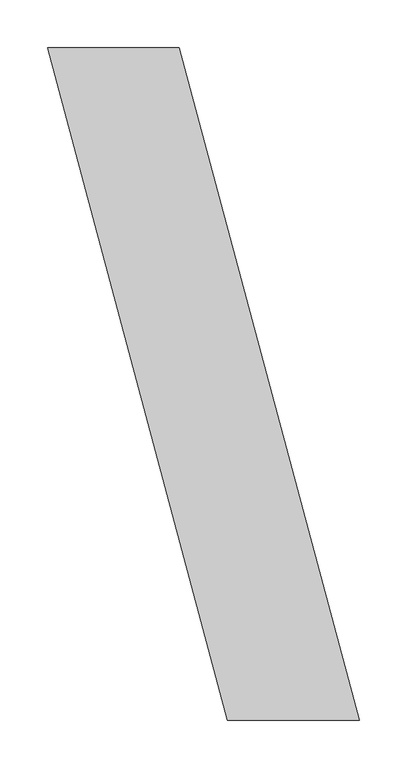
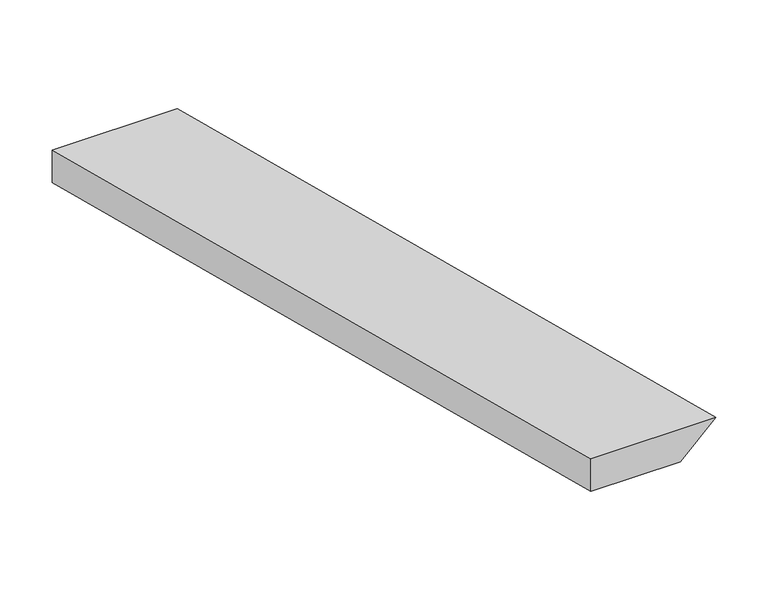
"""IFC4 building model written with IfcOpenShell, lengths in millimetres: proxy geometry, FOUNDATION^TABLE 5_60x180 RT END BASE-LEFT END."""

from ifc_helpers import new_model, si_unit, origin, place, context, project, spatial, faceted_brep, source, transform, mapped, element, save


def generic_models_5ebf4275(model_context):
    return source(origin(), model_context, "Body", "Brep", [
        faceted_brep([(3676.6599096, -704.85, -457.2), (3775.2699658, -704.85, -457.2), (3814.7139883, -704.85, -419.1), (3676.6599096, -704.85, -419.1), (3487.7959213, 0.0, -457.2), (3586.4059775, 0.0, -457.2), (3625.85, 0.0, -419.1), (3487.7959213, 0.0, -419.1)], [[[0, 1, 2, 3]], [[1, 0, 4, 5]], [[2, 1, 5, 6]], [[3, 2, 6, 7]], [[0, 3, 7, 4]], [[5, 4, 7, 6]]]),
    ])


if __name__ == "__main__":
    model = new_model("IFC4")
    model_context = context("Model", 3, world=origin())
    ifc_project = project(units=[si_unit("LENGTHUNIT", "METRE", prefix="MILLI")], contexts=[model_context])
    site = spatial("IfcSite", under=ifc_project)
    building = spatial("IfcBuilding", under=site)
    placement = place(None, origin())
    generic_models_shape = generic_models_5ebf4275(model_context)
    element("IfcBuildingElementProxy", 1, Name="FOUNDATION^TABLE 5_60x180 RT END BASE-LEFT END", ObjectType="FOUNDATION^TABLE 5_60x180 RT END BASE-LEFT END", at=placement, inside=building, context=model_context, shape_type="MappedRepresentation", body=[
        mapped(generic_models_shape, transform((0.0, 0.0, 0.0), x_axis=(1.0, 0.0, 0.0), y_axis=(0.0, 1.0, 0.0), z_axis=(0.0, 0.0, 1.0))),
    ])
    save(model, "model.ifc")
